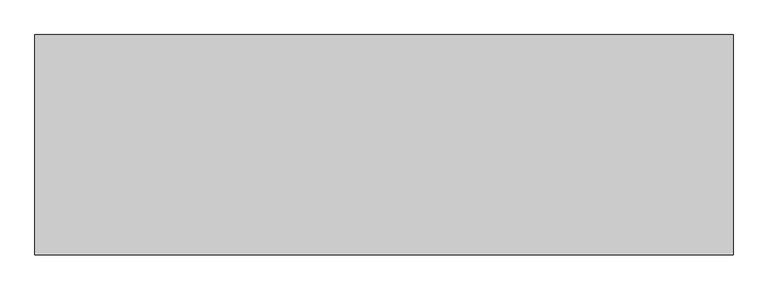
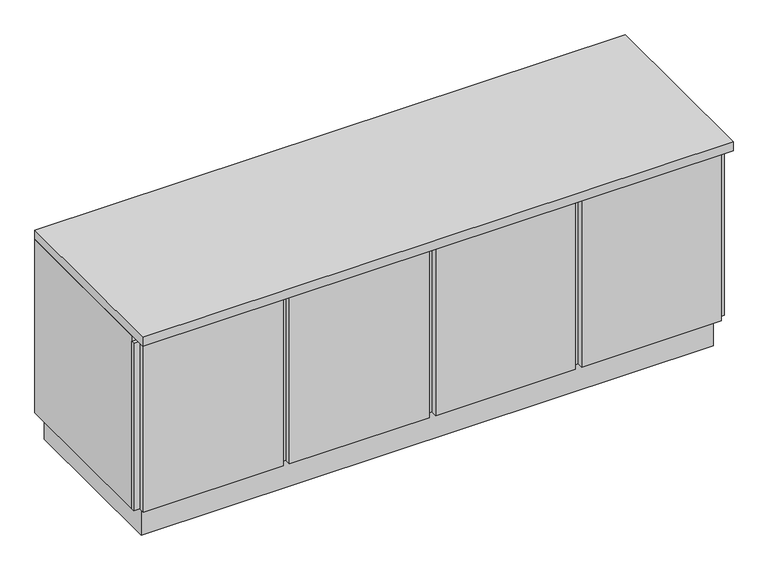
"""IFC4 building model written with IfcOpenShell, lengths in millimetres: furniture geometry, Armário linear baixo : Profundidade 60."""

from ifc_helpers import new_model, si_unit, frame, origin, origin_with_axes, place, context, project, spatial, polyline, outline, extrude, source, transform, mapped, element, save


def furniture_e93fa93d(model_context):
    return source(origin(), model_context, "Body", "SweptSolid", [
        extrude(outline(polyline([(-950.0, -240.0), (950.0, -240.0), (950.0, -250.0), (930.0, -250.0), (930.0, -270.0), (480.0, -270.0), (480.0, -250.0), (460.0, -250.0), (460.0, -270.0), (10.0, -270.0), (10.0, -250.0), (-10.0, -250.0), (-10.0, -270.0), (-460.0, -270.0), (-460.0, -250.0), (-480.0, -250.0), (-480.0, -270.0), (-930.0, -270.0), (-930.0, -250.0), (-950.0, -250.0), (-950.0, -240.0)])), frame((0.0, 0.0, 100.0), z_axis=(0.0, 0.0, 1.0), x_axis=(1.0, 0.0, 0.0)), (0.0, 0.0, 1.0), 570.0),
        extrude(outline(polyline([(950.0, 300.0), (950.0, -300.0), (-950.0, -300.0), (-950.0, 300.0), (950.0, 300.0)])), frame((0.0, 0.0, 690.0), z_axis=(0.0, 0.0, 1.0), x_axis=(1.0, 0.0, 0.0)), (0.0, 0.0, 1.0), 30.0),
        extrude(outline(polyline([(920.0, -220.0), (920.0, -240.0), (-920.0, -240.0), (-920.0, -220.0), (920.0, -220.0)])), frame((0.0, 0.0, 640.0), z_axis=(0.0, 0.0, 1.0), x_axis=(1.0, 0.0, 0.0)), (0.0, 0.0, 1.0), 50.0),
        extrude(outline(polyline([(-920.0, 300.0), (-920.0, -240.0), (-950.0, -240.0), (-950.0, 300.0), (-920.0, 300.0)])), frame((0.0, 0.0, 100.0), z_axis=(0.0, 0.0, 1.0), x_axis=(1.0, 0.0, 0.0)), (0.0, 0.0, 1.0), 590.0),
        extrude(outline(polyline([(950.0, 300.0), (950.0, -240.0), (920.0, -240.0), (920.0, 300.0), (950.0, 300.0)])), frame((0.0, 0.0, 100.0), z_axis=(0.0, 0.0, 1.0), x_axis=(1.0, 0.0, 0.0)), (0.0, 0.0, 1.0), 590.0),
        extrude(outline(polyline([(920.0, 300.0), (920.0, -240.0), (-920.0, -240.0), (-920.0, 300.0), (920.0, 300.0)])), origin_with_axes(), (0.0, 0.0, 1.0), 150.0),
        extrude(outline(polyline([(920.0, 300.0), (920.0, 290.0), (-920.0, 290.0), (-920.0, 300.0), (920.0, 300.0)])), frame((0.0, 0.0, 150.0), z_axis=(0.0, 0.0, 1.0), x_axis=(1.0, 0.0, 0.0)), (0.0, 0.0, 1.0), 540.0),
    ])


if __name__ == "__main__":
    model = new_model("IFC4")
    model_context = context("Model", 3, world=origin())
    ifc_project = project(units=[si_unit("LENGTHUNIT", "METRE", prefix="MILLI")], contexts=[model_context])
    site = spatial("IfcSite", under=ifc_project)
    building = spatial("IfcBuilding", under=site)
    placement = place(None, origin())
    furniture_shape = furniture_e93fa93d(model_context)
    element("IfcFurniture", 1, ObjectType="Armário linear baixo : Profundidade 60", at=placement, inside=building, context=model_context, shape_type="MappedRepresentation", body=[
        mapped(furniture_shape, transform((0.0, 0.0, 0.0), x_axis=(1.0, 0.0, 0.0), y_axis=(0.0, 1.0, 0.0), z_axis=(0.0, 0.0, 1.0))),
    ])
    save(model, "model.ifc")
